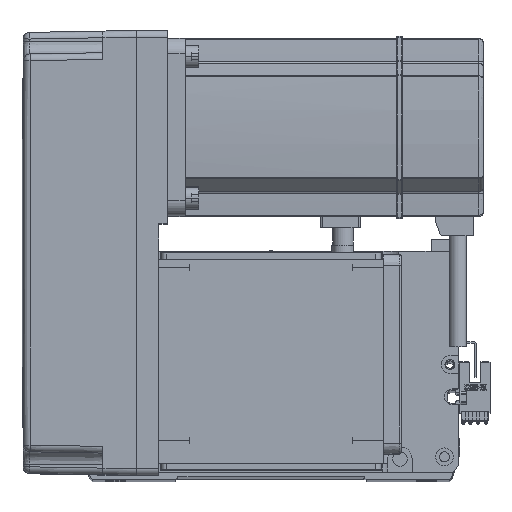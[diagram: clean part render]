
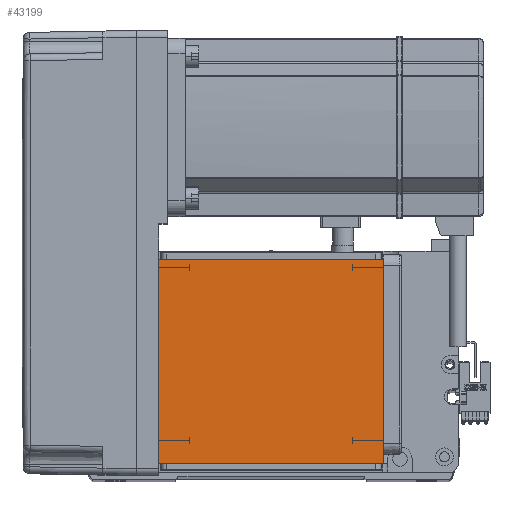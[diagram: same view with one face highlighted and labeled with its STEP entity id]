
A CAD part, top view. The second image highlights one B-rep face of the part: STEP entity #43199.
In plain terms, the highlighted planar face has unit normal (0, 0, 1).
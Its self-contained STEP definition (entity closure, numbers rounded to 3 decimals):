
#1088 = ORIENTED_EDGE ( 'NONE', *, *, #53051, .T. ) ;
#2007 = VECTOR ( 'NONE', #14318, 1000. ) ;
#2455 = ORIENTED_EDGE ( 'NONE', *, *, #25775, .T. ) ;
#2644 = CARTESIAN_POINT ( 'NONE',  ( -50.5, 111.5, 115. ) ) ;
#6535 = AXIS2_PLACEMENT_3D ( 'NONE', #35492, #18062, #44241 ) ;
#7047 = ORIENTED_EDGE ( 'NONE', *, *, #51419, .F. ) ;
#9760 = LINE ( 'NONE', #10938, #43125 ) ;
#10012 = CARTESIAN_POINT ( 'NONE',  ( -70.004, 111.5, 115. ) ) ;
#10938 = CARTESIAN_POINT ( 'NONE',  ( -70.004, 20., 115. ) ) ;
#14318 = DIRECTION ( 'NONE',  ( 0., -1., 0. ) ) ;
#14394 = DIRECTION ( 'NONE',  ( 1., 0., 0. ) ) ;
#18062 = DIRECTION ( 'NONE',  ( 0., 0., 1. ) ) ;
#18532 = CARTESIAN_POINT ( 'NONE',  ( -50.5, 122., 115. ) ) ;
#19758 = DIRECTION ( 'NONE',  ( -1., 0., 0. ) ) ;
#21071 = LINE ( 'NONE', #10012, #45490 ) ;
#23582 = CARTESIAN_POINT ( 'NONE',  ( -50.5, 20., 115. ) ) ;
#25775 = EDGE_CURVE ( 'NONE', #28792, #26436, #42216, .T. ) ;
#26436 = VERTEX_POINT ( 'NONE', #23582 ) ;
#27005 = ORIENTED_EDGE ( 'NONE', *, *, #29220, .F. ) ;
#28792 = VERTEX_POINT ( 'NONE', #2644 ) ;
#29220 = EDGE_CURVE ( 'NONE', #53057, #26436, #9760, .T. ) ;
#29359 = FACE_OUTER_BOUND ( 'NONE', #42654, .T. ) ;
#32051 = CARTESIAN_POINT ( 'NONE',  ( 50.5, 111.5, 115. ) ) ;
#34849 = CARTESIAN_POINT ( 'NONE',  ( 50.5, 122., 115. ) ) ;
#35492 = CARTESIAN_POINT ( 'NONE',  ( 0., 0., 115. ) ) ;
#36487 = LINE ( 'NONE', #34849, #43373 ) ;
#38848 = DIRECTION ( 'NONE',  ( 0., 1., 0. ) ) ;
#39240 = CARTESIAN_POINT ( 'NONE',  ( 50.5, 20., 115. ) ) ;
#39452 = VERTEX_POINT ( 'NONE', #32051 ) ;
#42216 = LINE ( 'NONE', #18532, #2007 ) ;
#42654 = EDGE_LOOP ( 'NONE', ( #7047, #2455, #27005, #1088 ) ) ;
#43125 = VECTOR ( 'NONE', #19758, 1000. ) ;
#43199 = ADVANCED_FACE ( 'NONE', ( #29359 ), #52651, .T. ) ;
#43373 = VECTOR ( 'NONE', #38848, 1000. ) ;
#44241 = DIRECTION ( 'NONE',  ( 1., 0., 0. ) ) ;
#45490 = VECTOR ( 'NONE', #14394, 1000. ) ;
#51419 = EDGE_CURVE ( 'NONE', #28792, #39452, #21071, .T. ) ;
#52651 = PLANE ( 'NONE',  #6535 ) ;
#53051 = EDGE_CURVE ( 'NONE', #53057, #39452, #36487, .T. ) ;
#53057 = VERTEX_POINT ( 'NONE', #39240 ) ;
